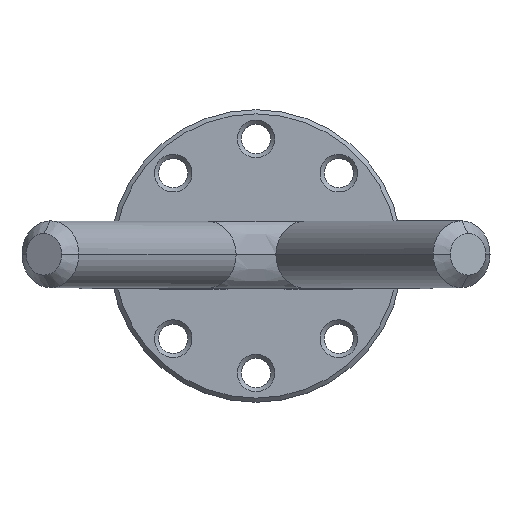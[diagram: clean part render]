
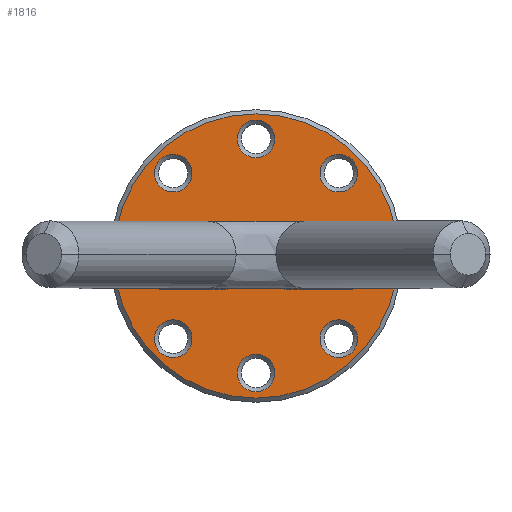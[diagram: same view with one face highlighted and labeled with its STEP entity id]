
A CAD part, top view. The second image highlights one B-rep face of the part: STEP entity #1816.
In plain terms, the highlighted planar face has unit normal (0, 0, 1).
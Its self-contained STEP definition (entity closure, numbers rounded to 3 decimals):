
#71=FACE_BOUND('',#314,.T.);
#72=FACE_BOUND('',#315,.T.);
#73=FACE_BOUND('',#316,.T.);
#74=FACE_BOUND('',#317,.T.);
#75=FACE_BOUND('',#318,.T.);
#76=FACE_BOUND('',#319,.T.);
#77=FACE_BOUND('',#320,.T.);
#78=FACE_BOUND('',#321,.T.);
#79=FACE_BOUND('',#322,.T.);
#182=FACE_OUTER_BOUND('',#313,.T.);
#313=EDGE_LOOP('',(#1361));
#314=EDGE_LOOP('',(#1362));
#315=EDGE_LOOP('',(#1363));
#316=EDGE_LOOP('',(#1364));
#317=EDGE_LOOP('',(#1365));
#318=EDGE_LOOP('',(#1366,#1367,#1368,#1369));
#319=EDGE_LOOP('',(#1370));
#320=EDGE_LOOP('',(#1371));
#321=EDGE_LOOP('',(#1372));
#322=EDGE_LOOP('',(#1373));
#459=CIRCLE('',#2048,4.5);
#460=CIRCLE('',#2050,34.);
#461=CIRCLE('',#2051,4.5);
#462=CIRCLE('',#2052,4.5);
#463=CIRCLE('',#2053,4.5);
#464=CIRCLE('',#2054,4.5);
#465=CIRCLE('',#2055,8.);
#466=CIRCLE('',#2056,8.);
#467=CIRCLE('',#2057,4.5);
#468=CIRCLE('',#2058,4.5);
#469=CIRCLE('',#2059,4.5);
#573=LINE('',#3151,#702);
#574=LINE('',#3154,#703);
#702=VECTOR('',#2431,10.);
#703=VECTOR('',#2434,10.);
#857=VERTEX_POINT('',#3133);
#858=VERTEX_POINT('',#3137);
#859=VERTEX_POINT('',#3139);
#860=VERTEX_POINT('',#3141);
#861=VERTEX_POINT('',#3143);
#862=VERTEX_POINT('',#3145);
#863=VERTEX_POINT('',#3147);
#864=VERTEX_POINT('',#3148);
#865=VERTEX_POINT('',#3150);
#866=VERTEX_POINT('',#3152);
#867=VERTEX_POINT('',#3155);
#868=VERTEX_POINT('',#3157);
#869=VERTEX_POINT('',#3159);
#1032=EDGE_CURVE('',#857,#857,#459,.T.);
#1034=EDGE_CURVE('',#858,#858,#460,.T.);
#1035=EDGE_CURVE('',#859,#859,#461,.T.);
#1036=EDGE_CURVE('',#860,#860,#462,.T.);
#1037=EDGE_CURVE('',#861,#861,#463,.T.);
#1038=EDGE_CURVE('',#862,#862,#464,.T.);
#1039=EDGE_CURVE('',#863,#864,#465,.T.);
#1040=EDGE_CURVE('',#864,#865,#573,.T.);
#1041=EDGE_CURVE('',#865,#866,#466,.T.);
#1042=EDGE_CURVE('',#866,#863,#574,.T.);
#1043=EDGE_CURVE('',#867,#867,#467,.T.);
#1044=EDGE_CURVE('',#868,#868,#468,.T.);
#1045=EDGE_CURVE('',#869,#869,#469,.T.);
#1361=ORIENTED_EDGE('',*,*,#1034,.F.);
#1362=ORIENTED_EDGE('',*,*,#1035,.F.);
#1363=ORIENTED_EDGE('',*,*,#1036,.F.);
#1364=ORIENTED_EDGE('',*,*,#1037,.F.);
#1365=ORIENTED_EDGE('',*,*,#1038,.F.);
#1366=ORIENTED_EDGE('',*,*,#1039,.T.);
#1367=ORIENTED_EDGE('',*,*,#1040,.T.);
#1368=ORIENTED_EDGE('',*,*,#1041,.T.);
#1369=ORIENTED_EDGE('',*,*,#1042,.T.);
#1370=ORIENTED_EDGE('',*,*,#1043,.F.);
#1371=ORIENTED_EDGE('',*,*,#1044,.F.);
#1372=ORIENTED_EDGE('',*,*,#1045,.F.);
#1373=ORIENTED_EDGE('',*,*,#1032,.F.);
#1753=PLANE('',#2049);
#1816=ADVANCED_FACE('',(#182,#71,#72,#73,#74,#75,#76,#77,#78,#79),#1753,
 .F.);
#2048=AXIS2_PLACEMENT_3D('',#3134,#2414,#2415);
#2049=AXIS2_PLACEMENT_3D('',#3136,#2417,#2418);
#2050=AXIS2_PLACEMENT_3D('',#3138,#2419,#2420);
#2051=AXIS2_PLACEMENT_3D('',#3140,#2421,#2422);
#2052=AXIS2_PLACEMENT_3D('',#3142,#2423,#2424);
#2053=AXIS2_PLACEMENT_3D('',#3144,#2425,#2426);
#2054=AXIS2_PLACEMENT_3D('',#3146,#2427,#2428);
#2055=AXIS2_PLACEMENT_3D('',#3149,#2429,#2430);
#2056=AXIS2_PLACEMENT_3D('',#3153,#2432,#2433);
#2057=AXIS2_PLACEMENT_3D('',#3156,#2435,#2436);
#2058=AXIS2_PLACEMENT_3D('',#3158,#2437,#2438);
#2059=AXIS2_PLACEMENT_3D('',#3160,#2439,#2440);
#2414=DIRECTION('center_axis',(0.,0.,1.));
#2415=DIRECTION('ref_axis',(0.707,0.707,0.));
#2417=DIRECTION('center_axis',(0.,0.,-1.));
#2418=DIRECTION('ref_axis',(-1.,0.,0.));
#2419=DIRECTION('center_axis',(0.,0.,-1.));
#2420=DIRECTION('ref_axis',(-1.,0.,0.));
#2421=DIRECTION('center_axis',(0.,0.,1.));
#2422=DIRECTION('ref_axis',(0.707,0.707,0.));
#2423=DIRECTION('center_axis',(0.,0.,1.));
#2424=DIRECTION('ref_axis',(0.707,0.707,0.));
#2425=DIRECTION('center_axis',(0.,0.,1.));
#2426=DIRECTION('ref_axis',(1.,0.,0.));
#2427=DIRECTION('center_axis',(0.,0.,1.));
#2428=DIRECTION('ref_axis',(1.,0.,0.));
#2429=DIRECTION('center_axis',(0.,0.,-1.));
#2430=DIRECTION('ref_axis',(-1.,0.,0.));
#2431=DIRECTION('',(1.,0.,0.));
#2432=DIRECTION('center_axis',(0.,0.,-1.));
#2433=DIRECTION('ref_axis',(1.,0.,0.));
#2434=DIRECTION('',(-1.,0.,0.));
#2435=DIRECTION('center_axis',(0.,0.,1.));
#2436=DIRECTION('ref_axis',(1.,0.,0.));
#2437=DIRECTION('center_axis',(0.,0.,1.));
#2438=DIRECTION('ref_axis',(1.,0.,0.));
#2439=DIRECTION('center_axis',(0.,0.,1.));
#2440=DIRECTION('ref_axis',(0.707,0.707,0.));
#3133=CARTESIAN_POINT('',(16.617,-22.981,8.));
#3134=CARTESIAN_POINT('Origin',(19.799,-19.799,8.));
#3136=CARTESIAN_POINT('Origin',(0.,0.,8.));
#3137=CARTESIAN_POINT('',(34.,0.,8.));
#3138=CARTESIAN_POINT('Origin',(0.,0.,8.));
#3139=CARTESIAN_POINT('',(16.617,16.617,8.));
#3140=CARTESIAN_POINT('Origin',(19.799,19.799,8.));
#3141=CARTESIAN_POINT('',(-22.981,-22.981,8.));
#3142=CARTESIAN_POINT('Origin',(-19.799,-19.799,8.));
#3143=CARTESIAN_POINT('',(23.5,0.,8.));
#3144=CARTESIAN_POINT('Origin',(28.,0.,8.));
#3145=CARTESIAN_POINT('',(-32.5,0.,8.));
#3146=CARTESIAN_POINT('Origin',(-28.,0.,8.));
#3147=CARTESIAN_POINT('',(-0.5,-2.784,8.));
#3148=CARTESIAN_POINT('',(-0.5,2.784,8.));
#3149=CARTESIAN_POINT('Origin',(-8.,0.,8.));
#3150=CARTESIAN_POINT('',(0.5,2.784,8.));
#3151=CARTESIAN_POINT('',(0.25,2.784,8.));
#3152=CARTESIAN_POINT('',(0.5,-2.784,8.));
#3153=CARTESIAN_POINT('Origin',(8.,0.,8.));
#3154=CARTESIAN_POINT('',(-0.25,-2.784,8.));
#3155=CARTESIAN_POINT('',(-4.5,28.,8.));
#3156=CARTESIAN_POINT('Origin',(0.,28.,8.));
#3157=CARTESIAN_POINT('',(-4.5,-28.,8.));
#3158=CARTESIAN_POINT('Origin',(0.,-28.,8.));
#3159=CARTESIAN_POINT('',(-22.981,16.617,8.));
#3160=CARTESIAN_POINT('Origin',(-19.799,19.799,8.));
